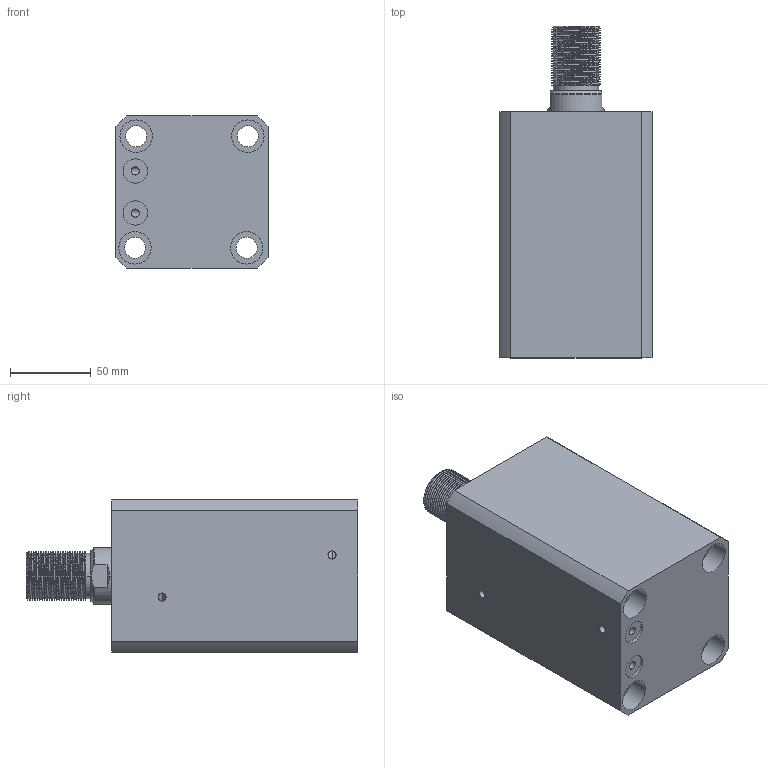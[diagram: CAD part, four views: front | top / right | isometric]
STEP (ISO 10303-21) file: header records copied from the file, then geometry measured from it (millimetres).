
FILE_DESCRIPTION (( 'STEP AP214' ), '1' );
FILE_NAME ('chtb-sdmb63x85w_asm.STEP', '2018-05-18T12:10:02', ( 'Windows' ), ( 'Microsoft' ), 'SwSTEP 2.0', 'SolidWorks 2015', '' );
FILE_SCHEMA (( 'AUTOMOTIVE_DESIGN' ));
Length unit declared in the file: millimetre
Products named in the file (4): CHTB-SDMB63X85NBT; CHTB-63QG; CHTB63X85WHSG; chtb-sdmb63x85w_asm
Assembly tree (3 placements, depth 2):
  chtb-sdmb63x85w_asm
    CHTB63X85WHSG
    CHTB-63QG
    CHTB-SDMB63X85NBT
Bounding box: 94 x 205 x 94 mm (x, y, z)
Volume: 1084019.8 mm3; surface area: 179762.9 mm2
Topology: 3 solids, 3 shells, 218 faces, 628 edges, 427 vertices
Faces by surface type: cylinder 156, plane 33, bspline 14, cone 9, torus 6
Entity records: 22278 total; most frequent: CARTESIAN_POINT 17042, ORIENTED_EDGE 1248, DIRECTION 869, EDGE_CURVE 624, VERTEX_POINT 427, AXIS2_PLACEMENT_3D 339, EDGE_LOOP 251, FACE_OUTER_BOUND 218
